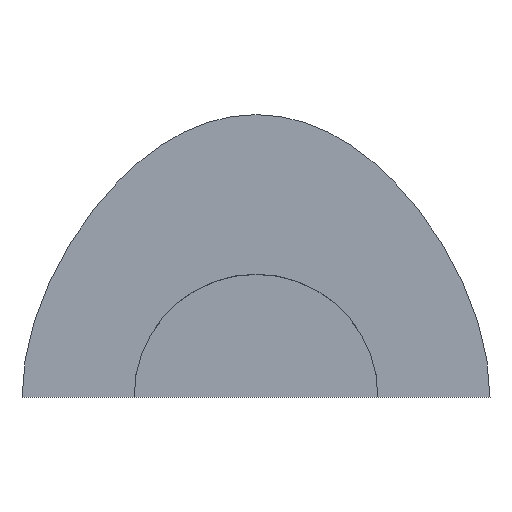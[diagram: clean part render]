
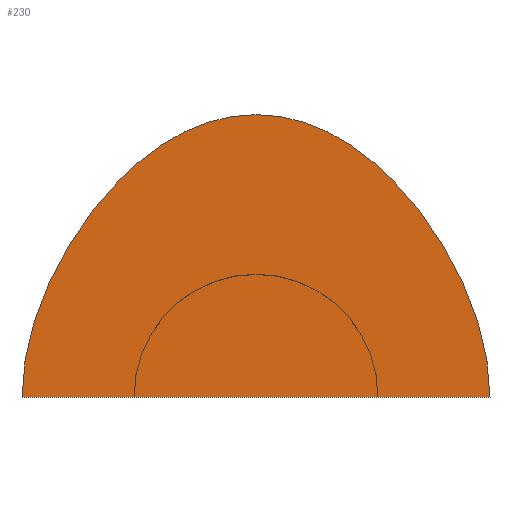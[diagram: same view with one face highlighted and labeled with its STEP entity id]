
A CAD part, top view. The second image highlights one B-rep face of the part: STEP entity #230.
In plain terms, the highlighted planar face has unit normal (0, 0, 1).
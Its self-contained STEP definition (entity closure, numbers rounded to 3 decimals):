
#193=CARTESIAN_POINT('Axis2P3D Location',(0.,47.011,0.)) ;
#198=CARTESIAN_POINT('Line Origine',(0.,0.,0.)) ;
#202=CARTESIAN_POINT('Vertex',(-96.,0.,0.)) ;
#204=CARTESIAN_POINT('Vertex',(96.,0.,0.)) ;
#208=CARTESIAN_POINT('Control Point',(0.,116.,0.)) ;
#209=CARTESIAN_POINT('Control Point',(30.114,116.,0.)) ;
#210=CARTESIAN_POINT('Control Point',(57.879,98.293,0.)) ;
#211=CARTESIAN_POINT('Control Point',(83.293,62.879,0.)) ;
#212=CARTESIAN_POINT('Control Point',(96.,30.114,0.)) ;
#213=CARTESIAN_POINT('Control Point',(96.,0.,0.)) ;
#214=CARTESIAN_POINT('Vertex',(0.,116.,0.)) ;
#218=CARTESIAN_POINT('Control Point',(0.,116.,0.)) ;
#219=CARTESIAN_POINT('Control Point',(-30.114,116.,0.)) ;
#220=CARTESIAN_POINT('Control Point',(-57.879,98.293,0.)) ;
#221=CARTESIAN_POINT('Control Point',(-83.293,62.879,0.)) ;
#222=CARTESIAN_POINT('Control Point',(-96.,30.114,0.)) ;
#223=CARTESIAN_POINT('Control Point',(-96.,0.,0.)) ;
#194=DIRECTION('Axis2P3D Direction',(0.,0.,1.)) ;
#195=DIRECTION('Axis2P3D XDirection',(1.,0.,0.)) ;
#199=DIRECTION('Vector Direction',(1.,0.,0.)) ;
#196=AXIS2_PLACEMENT_3D('Plane Axis2P3D',#193,#194,#195) ;
#226=ORIENTED_EDGE('',*,*,#206,.T.) ;
#227=ORIENTED_EDGE('',*,*,#216,.T.) ;
#228=ORIENTED_EDGE('',*,*,#224,.T.) ;
#200=VECTOR('Line Direction',#199,1.) ;
#230=ADVANCED_FACE('Fill.1',(#229),#197,.T.) ;
#207=B_SPLINE_CURVE_WITH_KNOTS('',5,(#208,#209,#210,#211,#212,#213),.UNSPECIFIED.,.F.,.U.,(6,6),(0.,150.572),.UNSPECIFIED.) ;
#217=B_SPLINE_CURVE_WITH_KNOTS('',5,(#218,#219,#220,#221,#222,#223),.UNSPECIFIED.,.F.,.U.,(6,6),(0.,150.572),.UNSPECIFIED.) ;
#206=EDGE_CURVE('',#203,#205,#201,.T.) ;
#216=EDGE_CURVE('',#205,#215,#207,.F.) ;
#224=EDGE_CURVE('',#215,#203,#217,.T.) ;
#225=EDGE_LOOP('',(#226,#227,#228)) ;
#229=FACE_OUTER_BOUND('',#225,.T.) ;
#201=LINE('Line',#198,#200) ;
#197=PLANE('',#196) ;
#203=VERTEX_POINT('',#202) ;
#205=VERTEX_POINT('',#204) ;
#215=VERTEX_POINT('',#214) ;
